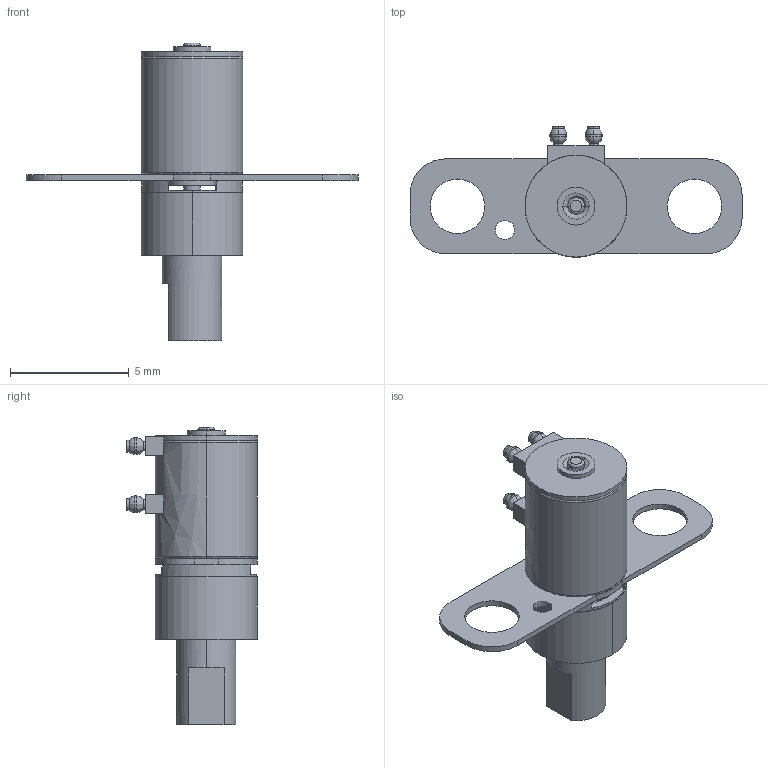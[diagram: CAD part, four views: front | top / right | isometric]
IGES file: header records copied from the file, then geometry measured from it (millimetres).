
Start section: SolidWorks IGES file using analytic representation for surfaces
Bounding box: 14 x 5.5 x 12.55 mm (x, y, z)
Volume: 129.5 mm3; surface area: 342.8 mm2
Topology: 3 solids, 3 shells, 155 faces, 747 edges, 961 vertices
Faces by surface type: revolution 78, plane 52, bspline 25
